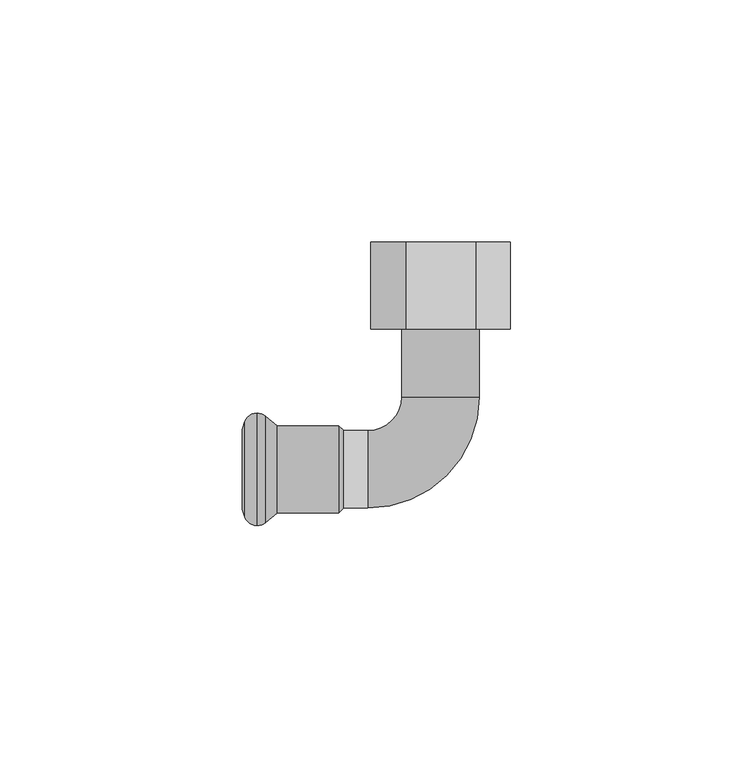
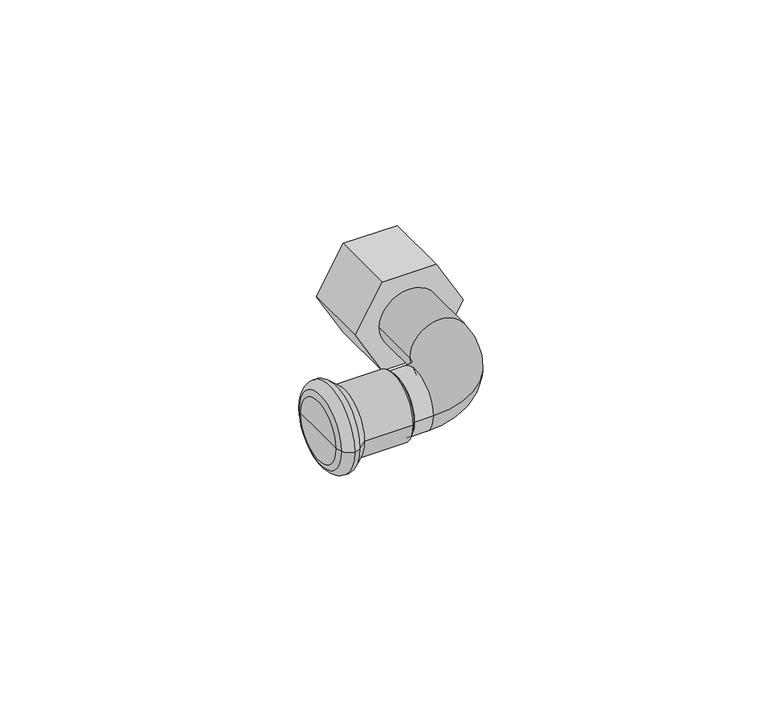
"""IFC4 building model written with IfcOpenShell, lengths in millimetres: pipe fitting geometry, KAN-therm Steel kolano z GW : KAN-therm Steel kolano z GW."""

from ifc_helpers import new_model, si_unit, point, frame, origin, place, context, project, spatial, polyline, circle_curve, ellipse_curve, trimmed, outline, extrude, source, transform, mapped, element, save
from ifc_brep_helpers import plane_surface, cylinder_surface, revolved_surface, advanced_brep


def pipe_fitting_eaec430f(model_context):
    return source(origin(), model_context, "Body", "SolidModel", [
        advanced_brep(
        [(-8.0, 29.0, 0.0), (8.0, 29.0, 0.0), (-8.0, 15.0, 0.0), (8.0, 15.0, 0.0), (-20.0, 8.0, 0.0), (-20.0, -8.0, 0.0), (-15.0, -8.0, 0.0), (-15.0, 8.0, 0.0)],
        [
            (0, 1, circle_curve(frame((0.0, 29.0, 0.0), z_axis=(0.0, 1.0, 0.0), x_axis=(1.0, 0.0, 0.0)), 8.0)),
            (1, 0, circle_curve(frame((0.0, 29.0, 0.0), z_axis=(0.0, 1.0, 0.0), x_axis=(1.0, 0.0, 0.0)), 8.0)),
            (0, 2),
            (2, 3, circle_curve(frame((0.0, 15.0, 0.0), z_axis=(0.0, 1.0, 0.0), x_axis=(1.0, 0.0, 0.0)), 8.0)),
            (3, 1),
            (3, 2, circle_curve(frame((0.0, 15.0, 0.0), z_axis=(0.0, 1.0, 0.0), x_axis=(1.0, 0.0, 0.0)), 8.0)),
            (4, 5, circle_curve(frame((-20.0, 0.0, 0.0), z_axis=(-1.0, 0.0, 0.0), x_axis=(0.0, -1.0, 0.0)), 8.0)),
            (5, 4, circle_curve(frame((-20.0, 0.0, 0.0), z_axis=(-1.0, 0.0, 0.0), x_axis=(0.0, -1.0, 0.0)), 8.0)),
            (6, 7, circle_curve(frame((-15.0, 0.0, 0.0), z_axis=(-1.0, 0.0, 0.0), x_axis=(0.0, -1.0, 0.0)), 8.0)),
            (7, 4),
            (5, 6),
            (7, 6, circle_curve(frame((-15.0, 0.0, 0.0), z_axis=(-1.0, 0.0, 0.0), x_axis=(0.0, -1.0, 0.0)), 8.0)),
            (6, 3, circle_curve(frame((-15.0, 15.0, 0.0), z_axis=(0.0, 0.0, 1.0), x_axis=(1.0, 0.0, 0.0)), 23.0)),
            (2, 7, circle_curve(frame((-15.0, 15.0, 0.0), z_axis=(0.0, 0.0, -1.0), x_axis=(1.0, 0.0, 0.0)), 7.0)),
        ],
        [
            plane_surface(frame((0.0, 29.0, 0.0), z_axis=(0.0, 1.0, 0.0), x_axis=(0.0, 0.0, 1.0))),
            cylinder_surface(frame((0.0, 29.0, 0.0), z_axis=(0.0, 1.0, 0.0), x_axis=(1.0, 0.0, 0.0)), 8.0),
            plane_surface(frame((-20.0, 0.0, 0.0), z_axis=(-1.0, 0.0, 0.0), x_axis=(0.0, 0.0, 1.0))),
            cylinder_surface(frame((-15.0, 0.0, 0.0), z_axis=(1.0, 0.0, 0.0), x_axis=(0.0, -1.0, 0.0)), 8.0),
            revolved_surface(trimmed(ellipse_curve(frame((0.0, 15.0, 0.0), z_axis=(0.0, 1.0, 0.0), x_axis=(1.0, 0.0, 0.0)), 8.0, 8.0), [point((-8.0, 15.0, 0.0))], [point((8.0, 15.0, 0.0))], True, "CARTESIAN"), (-15.0, 15.0, 0.0), (0.0, 0.0, -1.0)),
            revolved_surface(trimmed(ellipse_curve(frame((0.0, 15.0, 0.0), z_axis=(0.0, 1.0, 0.0), x_axis=(1.0, 0.0, 0.0)), 8.0, 8.0), [point((8.0, 15.0, 0.0))], [point((-8.0, 15.0, 0.0))], True, "CARTESIAN"), (-15.0, 15.0, 0.0), (0.0, 0.0, -1.0)),
        ],
        [
            (0, [[1, 2]]),
            (1, [[-1, 3, 4, 5]]),
            (1, [[-2, -5, 6, -3]]),
            (2, [[7, 8]]),
            (3, [[9, 10, -8, 11]]),
            (3, [[12, -11, -7, -10]]),
            (4, [[13, -4, 14, -9]]),
            (5, [[-14, -6, -13, -12]]),
        ],
    ),
        extrude(outline(polyline([(0.0, 14.4337567), (12.5, 7.2168784), (12.5, -7.2168784), (0.0, -14.4337567), (-12.5, -7.2168784), (-12.5, 7.2168784), (0.0, 14.4337567)])), frame((0.0, 29.0, 0.0), z_axis=(0.0, 1.0, 0.0), x_axis=(0.0, 0.0, 1.0)), (0.0, 0.0, 1.0), 18.0),
        advanced_brep(
        [(-33.7838092, -9.0, 0.0), (-33.7838092, 9.0, 0.0), (-21.0, 9.0, 0.0), (-21.0, -9.0, 0.0), (-36.0922627, -10.9370225, 0.0), (-36.0922627, 10.9370225, 0.0), (-37.8921278, -11.625, 0.0), (-37.8921278, 11.625, 0.0), (-40.432052, -9.8484544, 0.0), (-40.432052, 9.8484544, 0.0), (-41.0, -8.2880302, 0.0), (-41.0, 8.2880302, 0.0), (-41.0, 0.0, 0.0), (-20.0, 8.0, 0.0), (-20.0, -8.0, 0.0), (-20.0, 0.0, 0.0)],
        [
            (0, 1, circle_curve(frame((-33.7838092, 0.0, 0.0), z_axis=(1.0, 0.0, 0.0), x_axis=(0.0, 1.0, 0.0)), 9.0)),
            (1, 2),
            (2, 3, circle_curve(frame((-21.0, 0.0, 0.0), z_axis=(-1.0, 0.0, 0.0), x_axis=(0.0, 1.0, 0.0)), 9.0)),
            (3, 0),
            (1, 0, circle_curve(frame((-33.7838092, 0.0, 0.0), z_axis=(1.0, 0.0, 0.0), x_axis=(0.0, 1.0, 0.0)), 9.0)),
            (3, 2, circle_curve(frame((-21.0, 0.0, 0.0), z_axis=(-1.0, 0.0, 0.0), x_axis=(0.0, 1.0, 0.0)), 9.0)),
            (4, 5, circle_curve(frame((-36.0922627, 0.0, 0.0), z_axis=(1.0, 0.0, 0.0), x_axis=(0.0, 1.0, 0.0)), 10.9370225)),
            (5, 1),
            (0, 4),
            (5, 4, circle_curve(frame((-36.0922627, 0.0, 0.0), z_axis=(1.0, 0.0, 0.0), x_axis=(0.0, 1.0, 0.0)), 10.9370225)),
            (6, 7, circle_curve(frame((-37.8921278, 0.0, 0.0), z_axis=(1.0, 0.0, 0.0), x_axis=(0.0, 1.0, 0.0)), 11.625)),
            (7, 5, circle_curve(frame((-37.8935049, 8.9230333, 0.0), z_axis=(0.0, 0.0, -1.0), x_axis=(1.0, 0.0, 0.0)), 2.701967)),
            (4, 6, circle_curve(frame((-37.8935049, -8.9230333, 0.0), z_axis=(0.0, 0.0, -1.0), x_axis=(1.0, 0.0, 0.0)), 2.701967)),
            (7, 6, circle_curve(frame((-37.8921278, 0.0, 0.0), z_axis=(1.0, 0.0, 0.0), x_axis=(0.0, 1.0, 0.0)), 11.625)),
            (8, 9, circle_curve(frame((-40.432052, 0.0, 0.0), z_axis=(1.0, 0.0, 0.0), x_axis=(0.0, 1.0, 0.0)), 9.8484544)),
            (9, 7, circle_curve(frame((-37.89488, 8.9249993, 0.0), z_axis=(0.0, 0.0, -1.0), x_axis=(1.0, 0.0, 0.0)), 2.7000021)),
            (6, 8, circle_curve(frame((-37.89488, -8.9249993, 0.0), z_axis=(0.0, 0.0, -1.0), x_axis=(1.0, 0.0, 0.0)), 2.7000021)),
            (9, 8, circle_curve(frame((-40.432052, 0.0, 0.0), z_axis=(1.0, 0.0, 0.0), x_axis=(0.0, 1.0, 0.0)), 9.8484544)),
            (10, 11, circle_curve(frame((-41.0, 0.0, 0.0), z_axis=(1.0, 0.0, 0.0), x_axis=(0.0, 1.0, 0.0)), 8.2880302)),
            (11, 9),
            (8, 10),
            (11, 10, circle_curve(frame((-41.0, 0.0, 0.0), z_axis=(1.0, 0.0, 0.0), x_axis=(0.0, 1.0, 0.0)), 8.2880302)),
            (12, 11),
            (10, 12),
            (2, 13),
            (13, 14, circle_curve(frame((-20.0, 0.0, 0.0), z_axis=(-1.0, 0.0, 0.0), x_axis=(0.0, 1.0, 0.0)), 8.0)),
            (14, 3),
            (14, 13, circle_curve(frame((-20.0, 0.0, 0.0), z_axis=(-1.0, 0.0, 0.0), x_axis=(0.0, 1.0, 0.0)), 8.0)),
            (13, 15),
            (15, 14),
        ],
        [
            cylinder_surface(frame((1334.742668, 0.0, 0.0), z_axis=(-1.0, 0.0, 0.0), x_axis=(0.0, 1.0, 0.0)), 9.0),
            revolved_surface(polyline([(-33.7838092, 9.0, 0.0), (-36.0922627, 10.9370225, 0.0)]), (1334.742668, 0.0, 0.0), (-1.0, 0.0, 0.0)),
            revolved_surface(trimmed(ellipse_curve(frame((-37.8935049, 8.9230333, 0.0), z_axis=(0.0, 0.0, 1.0), x_axis=(1.0, 0.0, 0.0)), 2.701967, 2.701967), [point((-36.0922627, 10.9370225, 0.0))], [point((-37.8921278, 11.625, 0.0))], True, "CARTESIAN"), (1334.742668, 0.0, 0.0), (-1.0, 0.0, 0.0)),
            revolved_surface(trimmed(ellipse_curve(frame((-37.89488, 8.9249993, 0.0), z_axis=(0.0, 0.0, 1.0), x_axis=(1.0, 0.0, 0.0)), 2.7000021, 2.7000021), [point((-37.8921278, 11.625, 0.0))], [point((-40.432052, 9.8484544, 0.0))], True, "CARTESIAN"), (1334.742668, 0.0, 0.0), (-1.0, 0.0, 0.0)),
            revolved_surface(polyline([(-40.432052, 9.8484544, 0.0), (-41.0, 8.2880302, 0.0)]), (1334.742668, 0.0, 0.0), (-1.0, 0.0, 0.0)),
            plane_surface(frame((-41.0, 0.0, 0.0), z_axis=(-1.0, 0.0, 0.0), x_axis=(0.0, 1.0, 0.0))),
            revolved_surface(polyline([(-20.0, 8.0, 0.0), (-21.0, 9.0, 0.0)]), (1334.742668, 0.0, 0.0), (-1.0, 0.0, 0.0)),
            plane_surface(frame((-20.0, 0.0, 0.0), z_axis=(1.0, 0.0, 0.0), x_axis=(0.0, 1.0, 0.0))),
        ],
        [
            (0, [[1, 2, 3, 4]]),
            (0, [[5, -4, 6, -2]]),
            (1, [[7, 8, -1, 9]]),
            (1, [[10, -9, -5, -8]]),
            (2, [[11, 12, -7, 13]]),
            (2, [[14, -13, -10, -12]]),
            (3, [[15, 16, -11, 17]]),
            (3, [[18, -17, -14, -16]]),
            (4, [[19, 20, -15, 21]]),
            (4, [[22, -21, -18, -20]]),
            (5, [[23, -19, 24]]),
            (5, [[-24, -22, -23]]),
            (6, [[-3, 25, 26, 27]]),
            (6, [[-6, -27, 28, -25]]),
            (7, [[-26, 29, 30]]),
            (7, [[-28, -30, -29]]),
        ],
    ),
    ])


if __name__ == "__main__":
    model = new_model("IFC4")
    model_context = context("Model", 3, world=origin())
    ifc_project = project(units=[si_unit("LENGTHUNIT", "METRE", prefix="MILLI")], contexts=[model_context])
    site = spatial("IfcSite", under=ifc_project)
    building = spatial("IfcBuilding", under=site)
    placement = place(None, origin())
    pipe_fitting_shape = pipe_fitting_eaec430f(model_context)
    element("IfcPipeFitting", 1, ObjectType="KAN-therm Steel kolano z GW : KAN-therm Steel kolano z GW", at=placement, inside=building, context=model_context, shape_type="MappedRepresentation", body=[
        mapped(pipe_fitting_shape, transform((0.0, 0.0, 0.0), x_axis=(1.0, 0.0, 0.0), y_axis=(0.0, 1.0, 0.0), z_axis=(0.0, 0.0, 1.0))),
    ])
    save(model, "model.ifc")
